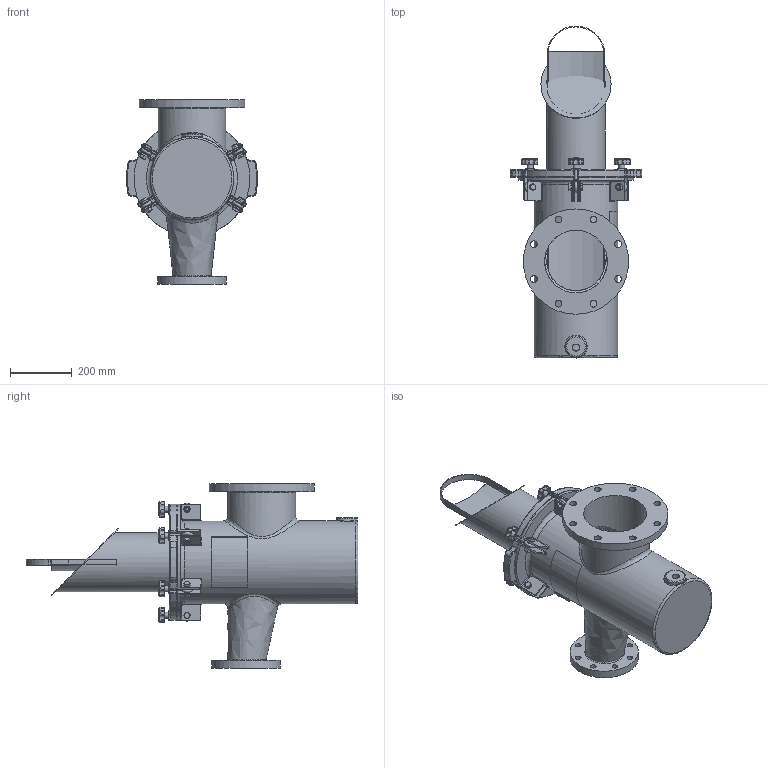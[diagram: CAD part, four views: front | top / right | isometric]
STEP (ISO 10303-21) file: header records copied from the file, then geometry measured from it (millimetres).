
FILE_DESCRIPTION(/* description */ ('200MM X 100MM FIBERGLASS STRAINER BODY'),/* implementation_level */ '2;1');
FILE_NAME(/* name */ 'C:\Users\r.kommineni.ext\Desktop\NB\CAD\Workspace\FG Reducing Strainer\Guardian FG Reducing H&L Strainer (Metric)_CLEARANCE VOLUME\STRAINER H&L 200MM X 100MM.stp',/* time_stamp */ '2017-06-09T13:34:02-04:00',/* author */ ('r.kommineni.ext'),/* organization */ (''),/* preprocessor_version */ 'ST-DEVELOPER v16.1',/* originating_system */ 'Autodesk Inventor 2016',/* authorisation */ '');
FILE_SCHEMA (('CONFIG_CONTROL_DESIGN'));
Length unit declared in the file: inch
Products named in the file (19): NBFGBODY08X04MM; 150NBCVR48R1; 150NBGSK48R1; Perforated Basket 10in; Bride (Ring) 10in; Baffle 10in; Handle 10in; Bottom Strainer 10in; Nut- 1_2  UNC; Bolt-1_2 x 1 1_2  UNC; EyeBolt; Washer; Knob M10; Securing Assembly For FG without Brace; Label for 10.625 inch (Right); Label for 10.625 inch (Left); NBBSK08T316_clearance; NBBSK08T316_clearance_1; STRAINER H&L 200MM X 100MM
Assembly tree (23 placements, depth 3):
  STRAINER H&L 200MM X 100MM
    NBFGBODY08X04MM
    150NBCVR48R1
    150NBGSK48R1
    NBBSK08T316_clearance_1
      Perforated Basket 10in
      Bride (Ring) 10in
      Baffle 10in
      Handle 10in
      Bottom Strainer 10in
      NBBSK08T316_clearance
    Securing Assembly For FG without Brace  x6
      Nut- 1_2  UNC
      Bolt-1_2 x 1 1_2  UNC
      EyeBolt
      Washer
      Knob M10
    Label for 10.625 inch (Right)
    Label for 10.625 inch (Left)
Bounding box: 424.18 x 1073.15 x 596.9 mm (x, y, z)
Volume: 11722887.6 mm3; surface area: 3214982.4 mm2
Topology: 40 solids, 45 shells, 1296 faces, 2990 edges, 1775 vertices
Faces by surface type: cylinder 475, plane 344, cone 138, torus 124, bspline 113, sphere 102
Full cylindrical faces by diameter (mm): 3.175 x10, 6.35 x2, 8.382 x6, 9.525 x12, 10.592 x6, 12.7 x6, 15.875 x12, 17.78 x8, 19 x12, 19.05 x6, 22.098 x8, 22.809 x1, 31.75 x6, 68.263 x1, 187.325 x2, 190.5 x2, 203.2 x1, 219.075 x1, 220.98 x1, 254 x2, 266.7 x1, 269.875 x1, 276.225 x1, 311.15 x1, 317.5 x1, 340.36 x1
Entity records: 27527 total; most frequent: CARTESIAN_POINT 10885, DIRECTION 3447, ORIENTED_EDGE 3098, EDGE_CURVE 1575, AXIS2_PLACEMENT_3D 1443, VERTEX_POINT 1002, EDGE_LOOP 883, CIRCLE 726
